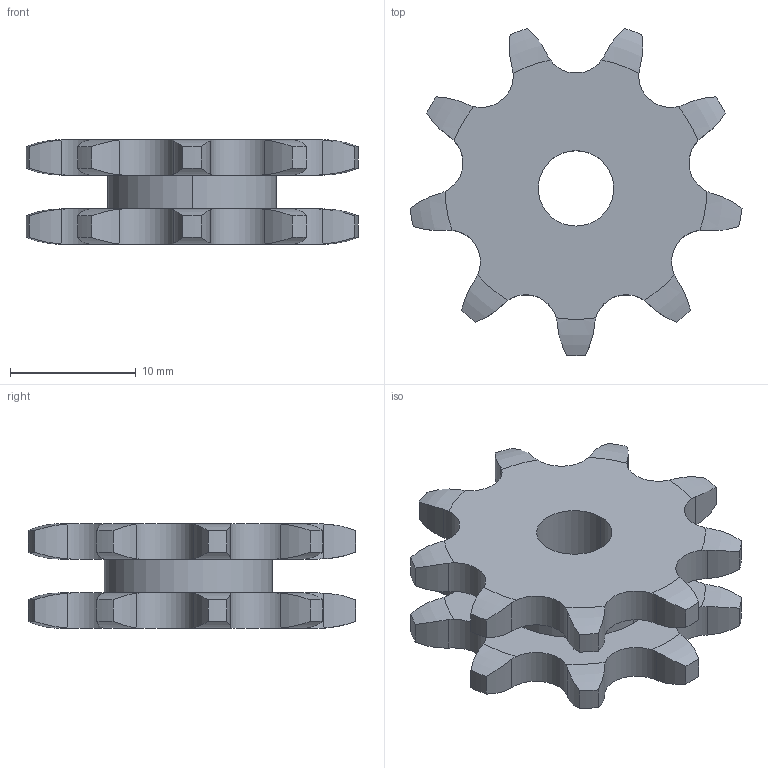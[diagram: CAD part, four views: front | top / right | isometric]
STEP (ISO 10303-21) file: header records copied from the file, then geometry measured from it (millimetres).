
FILE_DESCRIPTION((''),'2;1');
FILE_NAME('500-082-0009_PRT','2021-02-12T',('Brieden'),('Brieden'),'PRO/ENGINEER BY PARAMETRIC TECHNOLOGY CORPORATION, 2010160','PRO/ENGINEER BY PARAMETRIC TECHNOLOGY CORPORATION, 2010160','');
FILE_SCHEMA(('AUTOMOTIVE_DESIGN { 1 0 10303 214 1 1 1 1 }'));
Length unit declared in the file: millimetre
Products named in the file (1): 500-082-0009_PRT
Bounding box: 26.41 x 26.03 x 8.3 mm (x, y, z)
Volume: 2203.3 mm3; surface area: 1993.9 mm2
Topology: 1 solids, 1 shells, 116 faces, 336 edges, 224 vertices
Faces by surface type: cylinder 76, torus 36, plane 4
Entity records: 5361 total; most frequent: CARTESIAN_POINT 1390, ORIENTED_EDGE 672, DIRECTION 540, PRESENTATION_STYLE_ASSIGNMENT 337, STYLED_ITEM 337, CURVE_STYLE 336, EDGE_CURVE 336, AXIS2_PLACEMENT_3D 232
